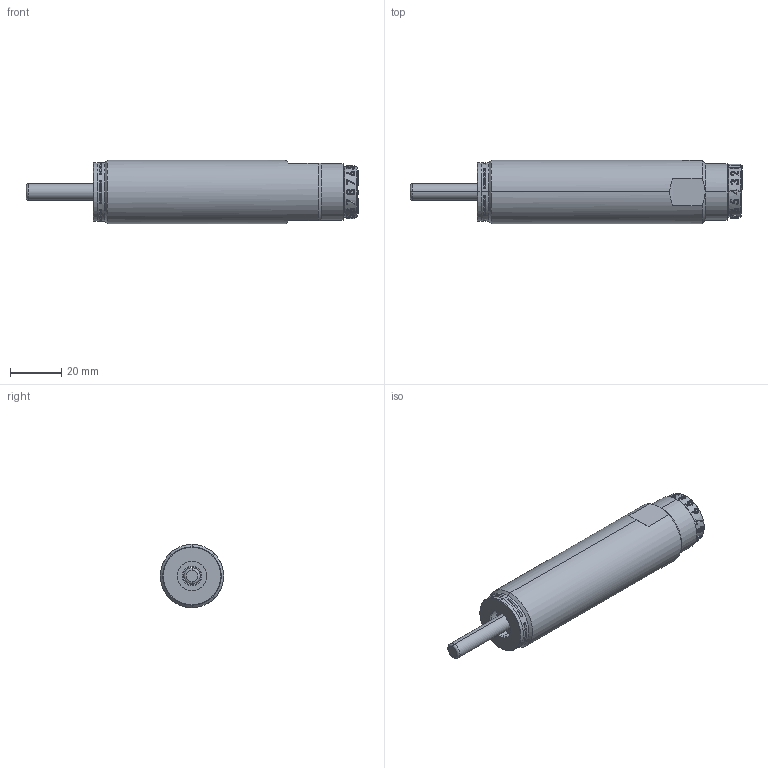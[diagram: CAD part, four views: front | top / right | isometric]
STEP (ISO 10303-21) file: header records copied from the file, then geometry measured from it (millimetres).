
FILE_DESCRIPTION (( 'STEP AP203' ), '1' );
FILE_NAME ('OEM 1.0.STEP', '2010-01-06T15:27:05', ( ' ' ), ( '' ), 'SwSTEP 2.0', 'SolidWorks 2006233', '' );
FILE_SCHEMA (( 'CONFIG_CONTROL_DESIGN' ));
Length unit declared in the file: inch
Products named in the file (1): OEM 1.0
Bounding box: 129.31 x 24.64 x 24.64 mm (x, y, z)
Surface area: 10789.1 mm2 (no closed solid volume)
Topology: 0 solids, 9 shells, 386 faces, 1050 edges, 698 vertices
Faces by surface type: plane 218, bspline 97, cylinder 33, cone 24, torus 14
Entity records: 17149 total; most frequent: CARTESIAN_POINT 8018, ORIENTED_EDGE 1996, DIRECTION 1554, EDGE_CURVE 1050, VERTEX_POINT 698, VECTOR 620, LINE 620, AXIS2_PLACEMENT_3D 467
